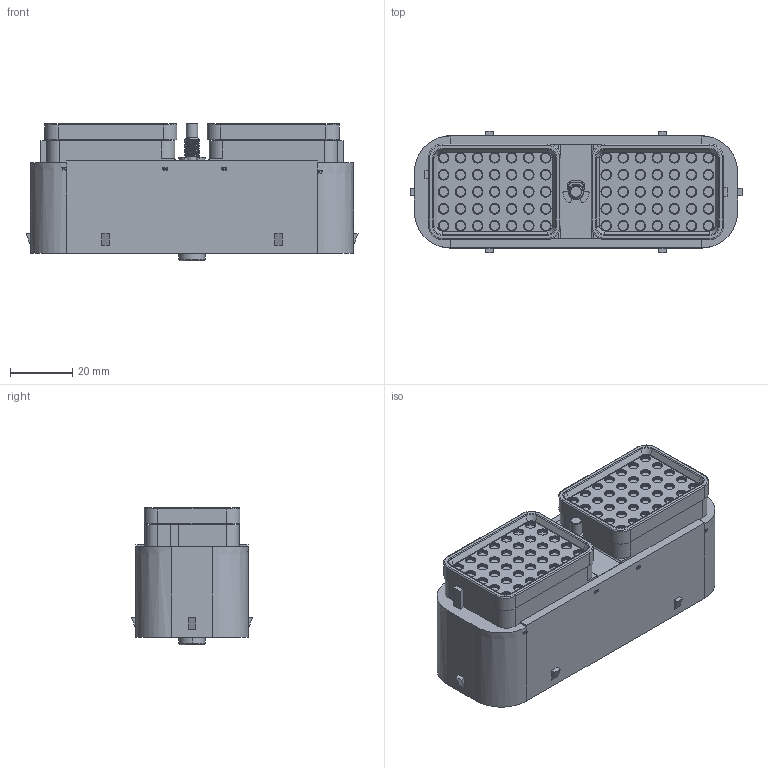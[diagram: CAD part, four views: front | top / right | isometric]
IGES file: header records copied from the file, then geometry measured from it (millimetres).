
Start section:  PTC IGES file: c-drc16-70sc-99-3d.igs
Global section: file name: c-drc16-70sc-99-3d.igs; native system: Pro/ENGINEER by Parametric Technology Corporation; preprocessor: 2011490; author: workeradm; organization: Unknown; units: millimetre
Bounding box: 106.88 x 38.99 x 44.32 mm (x, y, z)
Surface area: 22011.4 mm2 (no closed solid volume)
Topology: 0 solids, 0 shells, 1858 faces, 8542 edges, 8521 vertices
Faces by surface type: revolution 1117, bspline 741
